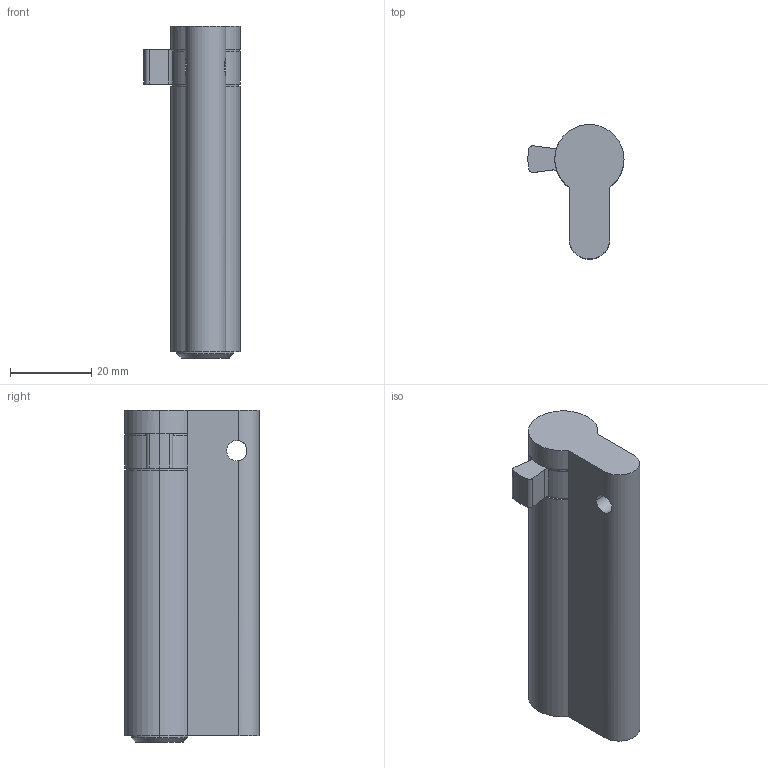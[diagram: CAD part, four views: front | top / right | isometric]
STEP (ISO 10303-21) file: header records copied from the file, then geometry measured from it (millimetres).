
FILE_DESCRIPTION (( 'STEP AP214' ), '1' );
FILE_NAME ('TPL-H-EU-514-R 29Oct2024.STEP', '2024-10-29T22:20:34', ( '' ), ( '' ), 'SwSTEP 2.0', 'SolidWorks 2023', '' );
FILE_SCHEMA (( 'AUTOMOTIVE_DESIGN' ));
Length unit declared in the file: millimetre
Products named in the file (1): TPL-H-EU-514-R 29Oct2024
Bounding box: 23.6 x 33 x 81.5 mm (x, y, z)
Volume: 30523.4 mm3; surface area: 8323.1 mm2
Topology: 1 solids, 1 shells, 46 faces, 127 edges, 80 vertices
Faces by surface type: cylinder 27, plane 16, cone 3
Entity records: 1575 total; most frequent: CARTESIAN_POINT 324, DIRECTION 278, ORIENTED_EDGE 254, EDGE_CURVE 127, AXIS2_PLACEMENT_3D 110, VERTEX_POINT 80, CIRCLE 63, VECTOR 58
